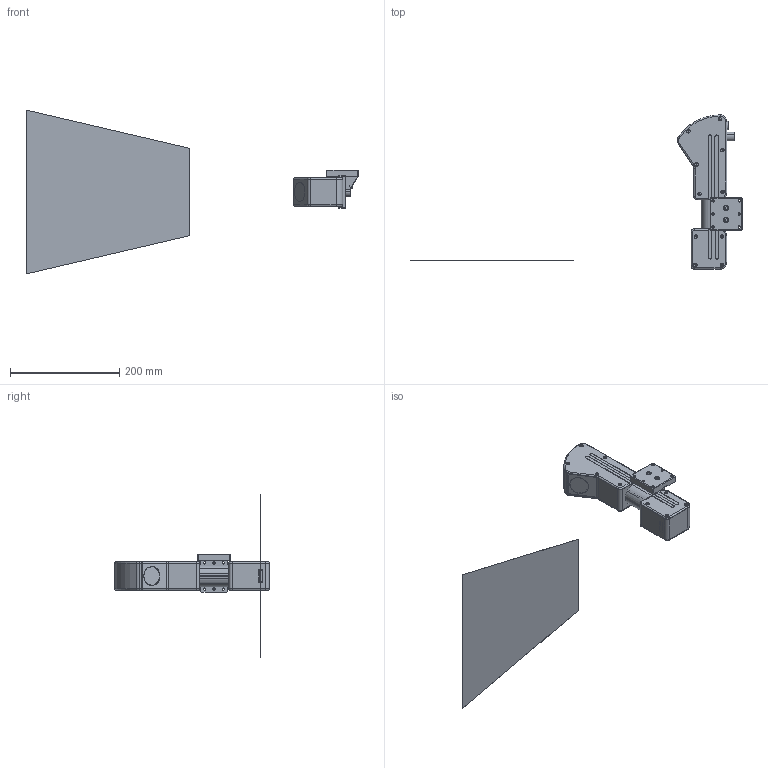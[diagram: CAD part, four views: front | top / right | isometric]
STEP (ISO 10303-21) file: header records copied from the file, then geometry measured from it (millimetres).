
FILE_DESCRIPTION (( 'STEP AP214' ), '1' );
FILE_NAME ('ÐÔ 627.190_300.000_Ñêàíåð áàëî÷íûé 300-êà-02 äëÿ ñàéòà.STEP', '2019-07-02T10:36:43', ( 'test' ), ( 'Ref' ), 'SwSTEP 2.0', 'SolidWorks 2015', '' );
FILE_SCHEMA (( 'AUTOMOTIVE_DESIGN' ));
Length unit declared in the file: millimetre
Products named in the file (35): Êðîíøòåéí  êðåï¸æíûé çàäíèé 3; Âèíò_Ì3x8 â ïîòàé; RF627_80_0171 ïîñëåäíÿÿ; Submodel-noModelForPart_FH12-32S-0.5SH_lpar_55_rpar__2555814880_1; Submodel-1553488_341613795_part_PHOENIX_1553488_1; Submodel-noModelForPart_1553488_341613795_1; placementOutline_1; Êðûøêà ìîäóëÿ ëàçåðà; ÐÔ 627.190_300.000_Ñêàíåð áàëî÷íûé 300-êà-02 äëÿ ñàéòà; Ñòåêëî ìàëîå 23-8; placementOutline_1_4; Øàéáà ïðóæèííàÿ_12; Ïîëå âèäåíèÿ 300-êà-02 áàëî÷íûé 33 ãðàäóñà; Êðûøêà  ëåâàÿ 1 700-êà; Êðîíøòåéí äîïîëíèòåëüíûé 3 - 33 ãðàäóñà; 膰豵鵨 錟谾譇 700-罻; Submodel-noModelForPart_FH12-06S-1SH_lpar_55_rpar__1599555785_1; Submodel-FH12-32S-0.5SH_lpar_55_rpar__2555814880_part_FH12-32S-0.5SH_1; Áîëò_Ì12õ40; Ñòåêëî Ä35; placementOutline_1_2; 嵑殧趌6; Ïðîôèëü _40X40_HR - 300-êà 33 ãðàäóñà; 妈眚 篑蜞眍忸黜 DIN 913 M5; 膰豵鵨 1 700-罻; uid__27_1; 性 625.75_ 袜觌彘赅_觏铒觇; placementOutline_1_3; Submodel-Binder_09-0428-30-08_3952738181_part_Binder_09-0428-30-08_1; Submodel-noModelForPart_Binder_09-0428-30-08_3952738181_1; Âèíò_Ì5õ15; Êðûøêà  ïðàâàÿ 1 700-êà; Âèíò_Ì2õ6; DesignRootModel_1; Submodel-FH12-06S-1SH_lpar_55_rpar__1599555785_part_FH12-06S-1SH_1
Assembly tree (62 placements, depth 6):
  ÐÔ 627.190_300.000_Ñêàíåð áàëî÷íûé 300-êà-02 äëÿ ñàéòà
    膰豵鵨 1 700-罻
    RF627_80_0171 ïîñëåäíÿÿ
      DesignRootModel_1
        uid__27_1
        Submodel-1553488_341613795_part_PHOENIX_1553488_1
          Submodel-noModelForPart_1553488_341613795_1
            placementOutline_1
        Submodel-Binder_09-0428-30-08_3952738181_part_Binder_09-0428-30-08_1
          Submodel-noModelForPart_Binder_09-0428-30-08_3952738181_1
            placementOutline_1_2
        Submodel-FH12-06S-1SH_lpar_55_rpar__1599555785_part_FH12-06S-1SH_1  x2
          Submodel-noModelForPart_FH12-06S-1SH_lpar_55_rpar__1599555785_1
            placementOutline_1_3
        Submodel-FH12-32S-0.5SH_lpar_55_rpar__2555814880_part_FH12-32S-0.5SH_1
          Submodel-noModelForPart_FH12-32S-0.5SH_lpar_55_rpar__2555814880_1
            placementOutline_1_4
    性 625.75_ 袜觌彘赅_觏铒觇
    嵑殧趌6
    膰豵鵨 錟谾譇 700-罻
    Êðûøêà  ïðàâàÿ 1 700-êà
    Êðûøêà  ëåâàÿ 1 700-êà
    Âèíò_Ì2õ6  x4
    Êðûøêà ìîäóëÿ ëàçåðà
    妈眚 篑蜞眍忸黜 DIN 913 M5  x2
    Âèíò_Ì3x8 â ïîòàé  x16
    Áîëò_Ì12õ40  x2
    Øàéáà ïðóæèííàÿ_12  x2
    Ñòåêëî Ä35
    Ïðîôèëü _40X40_HR - 300-êà 33 ãðàäóñà
    Êðîíøòåéí  êðåï¸æíûé çàäíèé 3
    Êðîíøòåéí äîïîëíèòåëüíûé 3 - 33 ãðàäóñà
    Âèíò_Ì5õ15  x7
    Ïîëå âèäåíèÿ 300-êà-02 áàëî÷íûé 33 ãðàäóñà
    Ñòåêëî ìàëîå 23-8
Bounding box: 608 x 282.61 x 300 mm (x, y, z)
Volume: 476352 mm3; surface area: 364527.1 mm2
Topology: 54 solids, 54 shells, 1901 faces, 4781 edges, 3033 vertices
Faces by surface type: plane 930, cylinder 585, cone 212, torus 90, bspline 84
Entity records: 51559 total; most frequent: CARTESIAN_POINT 12304, DIRECTION 7288, ORIENTED_EDGE 7234, EDGE_CURVE 3617, AXIS2_PLACEMENT_3D 2484, VERTEX_POINT 2358, LINE 2320, VECTOR 2320
